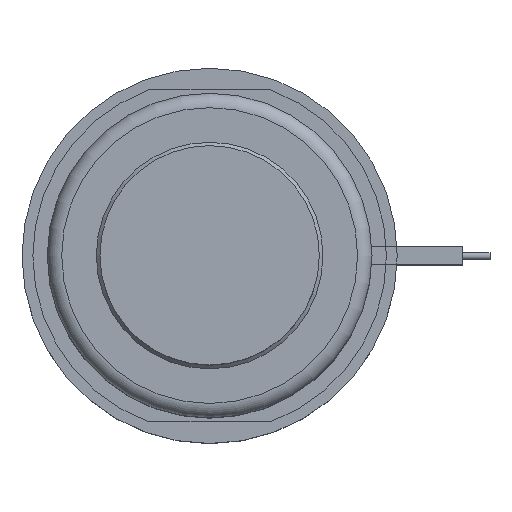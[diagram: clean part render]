
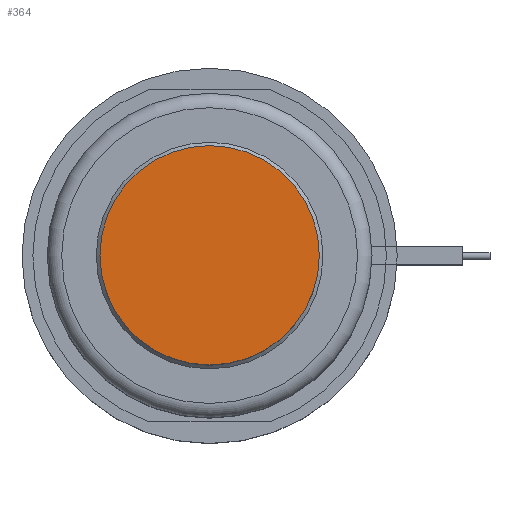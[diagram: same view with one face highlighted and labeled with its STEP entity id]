
A CAD part, top view. The second image highlights one B-rep face of the part: STEP entity #364.
In plain terms, the highlighted planar face has unit normal (0, 0, 1).
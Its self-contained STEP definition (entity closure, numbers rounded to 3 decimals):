
#236=PLANE('',#1304);
#282=FACE_OUTER_BOUND('',#573,.T.);
#364=ADVANCED_FACE('',(#282),#236,.F.);
#573=EDGE_LOOP('',(#715));
#715=ORIENTED_EDGE('',*,*,#1079,.F.);
#972=VERTEX_POINT('',#1867);
#1079=EDGE_CURVE('',#972,#972,#1213,.T.);
#1213=CIRCLE('',#1303,15.2);
#1303=AXIS2_PLACEMENT_3D('',#1866,#1500,#1501);
#1304=AXIS2_PLACEMENT_3D('',#1868,#1502,#1503);
#1500=DIRECTION('',(0.,0.,-1.));
#1501=DIRECTION('',(-1.,0.,0.));
#1502=DIRECTION('',(0.,0.,-1.));
#1503=DIRECTION('',(-1.,0.,0.));
#1866=CARTESIAN_POINT('',(0.,0.,18.));
#1867=CARTESIAN_POINT('',(-15.2,0.,18.));
#1868=CARTESIAN_POINT('',(0.,0.,18.));
